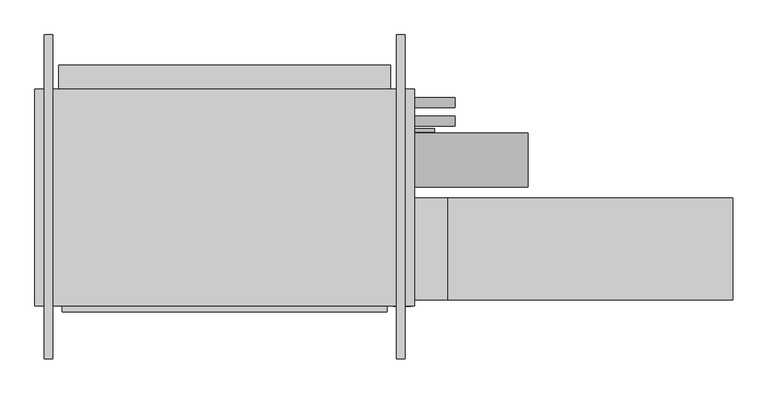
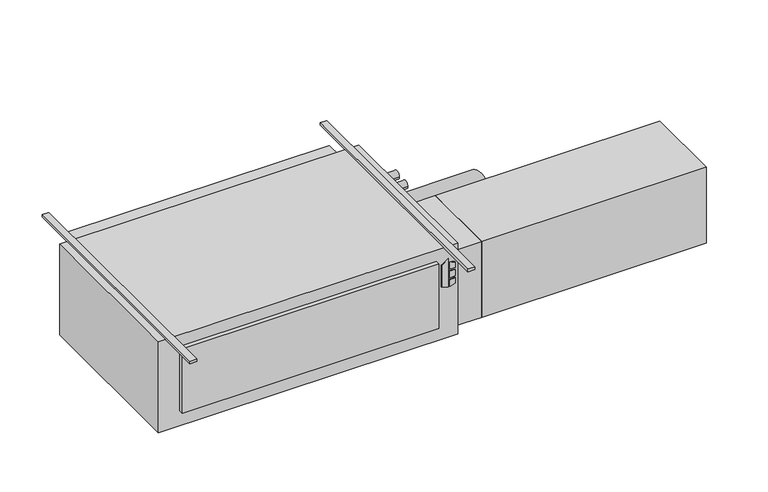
"""IFC4 building model written with IfcOpenShell, lengths in millimetres: proxy geometry."""

from ifc_helpers import new_model, si_unit, point, frame, frame_2d, origin, origin_with_axes, place, context, project, spatial, polyline, circle_curve, trimmed, segment, composite_curve, outline, extrude, source, transform, mapped, element, save


def mechanical_equipment_1765d083(model_context):
    return source(origin(), model_context, "Body", "SweptSolid", [
        extrude(outline(polyline([(-193.2519297, 785.8868862), (-203.2, 818.0602728), (-61.0290756, 818.0602728), (-84.0510817, 785.8868862), (-193.2519297, 785.8868862)])), frame((0.0, -647.7, 0.0), z_axis=(0.0, 1.0, 0.0), x_axis=(0.0, 0.0, 1.0)), (0.0, 0.0, 1.0), 3.175),
        extrude(outline(polyline([(-114.2526443, 824.8186058), (-117.4550368, 850.9), (-88.2261958, 850.9), (-80.1617807, 824.8186058), (-114.2526443, 824.8186058)])), frame((0.0, -647.7, 0.0), z_axis=(0.0, 1.0, 0.0), x_axis=(0.0, 0.0, 1.0)), (0.0, 0.0, 1.0), 3.175),
        extrude(outline(polyline([(-166.1161712, 850.9), (-169.7816721, 824.8186058), (-203.2, 824.8186058), (-194.5657628, 850.9), (-166.1161712, 850.9)])), frame((0.0, -647.7, 0.0), z_axis=(0.0, 1.0, 0.0), x_axis=(0.0, 0.0, 1.0)), (0.0, 0.0, 1.0), 3.175),
        extrude(outline(polyline([(-126.8010097, 850.9), (-124.5191834, 824.8186058), (-160.4567319, 824.8186058), (-157.7154669, 850.9), (-126.8010097, 850.9)])), frame((0.0, -647.7, 0.0), z_axis=(0.0, 1.0, 0.0), x_axis=(0.0, 0.0, 1.0)), (0.0, 0.0, 1.0), 3.175),
        extrude(outline(polyline([(762.0, -666.877), (-457.2, -666.877), (-457.2, -644.525), (762.0, -644.525), (762.0, -666.877)])), frame((0.0, 0.0, -381.0), z_axis=(0.0, 0.0, 1.0), x_axis=(1.0, 0.0, 0.0)), (0.0, 0.0, 1.0), 323.85),
        extrude(outline(polyline([(2057.4, -241.3), (2057.4, -622.3), (990.6, -622.3), (990.6, -241.3), (2057.4, -241.3)])), frame((0.0, 0.0, -431.8), z_axis=(0.0, 0.0, 1.0), x_axis=(1.0, 0.0, 0.0)), (0.0, 0.0, 1.0), 381.0),
        extrude(outline(polyline([(990.6, -241.3), (990.6, -622.3), (863.6, -622.3), (863.6, -241.3), (990.6, -241.3)])), frame((0.0, 0.0, -431.8), z_axis=(0.0, 0.0, 1.0), x_axis=(1.0, 0.0, 0.0)), (0.0, 0.0, 1.0), 381.0),
        extrude(outline(composite_curve([segment(trimmed(circle_curve(frame_2d((117.475, -171.45)), 19.05), [point((136.525, -171.45))], [point((98.425, -171.45))], False, "CARTESIAN"), True, "CONTINUOUS"), segment(trimmed(circle_curve(frame_2d((117.475, -171.45)), 19.05), [point((98.425, -171.45))], [point((136.525, -171.45))], False, "CARTESIAN"), True, "CONTINUOUS")], self_intersect=False)), frame((863.6, 0.0, 0.0), z_axis=(1.0, 0.0, 0.0), x_axis=(0.0, 1.0, 0.0)), (0.0, 0.0, 1.0), 152.4),
        extrude(outline(composite_curve([segment(trimmed(circle_curve(frame_2d((47.625, -177.8)), 19.05), [point((66.675, -177.8))], [point((28.575, -177.8))], False, "CARTESIAN"), True, "CONTINUOUS"), segment(trimmed(circle_curve(frame_2d((47.625, -177.8)), 19.05), [point((28.575, -177.8))], [point((66.675, -177.8))], False, "CARTESIAN"), True, "CONTINUOUS")], self_intersect=False)), frame((863.6, 0.0, 0.0), z_axis=(1.0, 0.0, 0.0), x_axis=(0.0, 1.0, 0.0)), (0.0, 0.0, 1.0), 152.4),
        extrude(outline(composite_curve([segment(trimmed(circle_curve(frame_2d((-98.4896516, -228.6360165)), 101.6), [point((3.1103484, -228.6360165))], [point((-200.0896516, -228.6360165))], False, "CARTESIAN"), True, "CONTINUOUS"), segment(trimmed(circle_curve(frame_2d((-98.4896516, -228.6360165)), 101.6), [point((-200.0896516, -228.6360165))], [point((3.1103484, -228.6360165))], False, "CARTESIAN"), True, "CONTINUOUS")], self_intersect=False)), frame((863.6, 0.0, 0.0), z_axis=(1.0, 0.0, 0.0), x_axis=(0.0, 1.0, 0.0)), (0.0, 0.0, 1.0), 425.45),
        extrude(outline(composite_curve([segment(trimmed(circle_curve(frame_2d((12.7, -409.575)), 6.35), [point((19.05, -409.575))], [point((6.35, -409.575))], False, "CARTESIAN"), True, "CONTINUOUS"), segment(trimmed(circle_curve(frame_2d((12.7, -409.575)), 6.35), [point((6.35, -409.575))], [point((19.05, -409.575))], False, "CARTESIAN"), True, "CONTINUOUS")], self_intersect=False)), frame((863.6, 0.0, 0.0), z_axis=(1.0, 0.0, 0.0), x_axis=(0.0, 1.0, 0.0)), (0.0, 0.0, 1.0), 76.2),
        extrude(outline(polyline([(863.6, 168.275), (863.6, -644.525), (-558.8, -644.525), (-558.8, 168.275), (863.6, 168.275)])), frame((0.0, 0.0, -457.2), z_axis=(0.0, 0.0, 1.0), x_axis=(1.0, 0.0, 0.0)), (0.0, 0.0, 1.0), 457.2),
        extrude(outline(polyline([(-469.9, 257.175), (774.7, 257.175), (774.7, 168.275), (-469.9, 168.275), (-469.9, 257.175)])), frame((0.0, 0.0, -381.0), z_axis=(0.0, 0.0, 1.0), x_axis=(1.0, 0.0, 0.0)), (0.0, 0.0, 1.0), 355.6),
        extrude(outline(polyline([(-492.125, 371.475), (-492.125, -844.677), (-523.875, -844.677), (-523.875, 371.475), (-492.125, 371.475)])), origin_with_axes(), (0.0, 0.0, 1.0), 12.7),
        extrude(outline(polyline([(828.675, 371.475), (828.675, -844.677), (796.925, -844.677), (796.925, 371.475), (828.675, 371.475)])), origin_with_axes(), (0.0, 0.0, 1.0), 12.7),
    ])


if __name__ == "__main__":
    model = new_model("IFC4")
    model_context = context("Model", 3, world=origin())
    ifc_project = project(units=[si_unit("LENGTHUNIT", "METRE", prefix="MILLI")], contexts=[model_context])
    site = spatial("IfcSite", under=ifc_project)
    building = spatial("IfcBuilding", under=site)
    placement = place(None, origin())
    mechanical_equipment_shape = mechanical_equipment_1765d083(model_context)
    element("IfcBuildingElementProxy", 1, Name="High_Capacity_Horizontal_Cabinet_Fan_Coil_Unit_-_HTY_-_IEC_-_2-Pipe_WO-Attenuator_RH Side_2022 : Size 20 - 277v/60Hz/1Ph - 8/0 Coil - 8\" AirIn", ObjectType="High_Capacity_Horizontal_Cabinet_Fan_Coil_Unit_-_HTY_-_IEC_-_2-Pipe_WO-Attenuator_RH Side_2022 : Size 20 - 277v/60Hz/1Ph - 8/0 Coil - 8\" AirIn", at=placement, inside=building, context=model_context, shape_type="MappedRepresentation", body=[
        mapped(mechanical_equipment_shape, transform((0.0, 0.0, 0.0), x_axis=(1.0, 0.0, 0.0), y_axis=(0.0, 1.0, 0.0), z_axis=(0.0, 0.0, 1.0))),
    ])
    save(model, "model.ifc")
